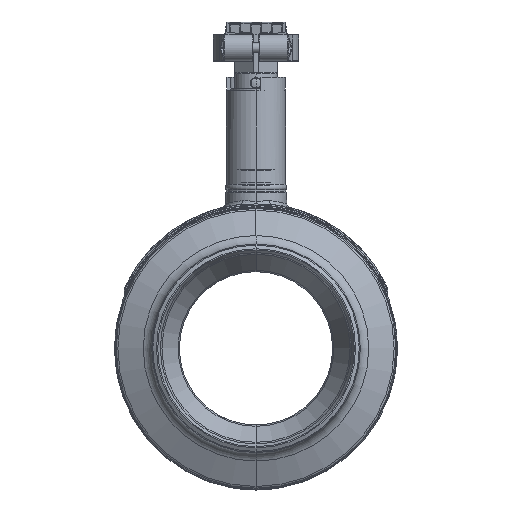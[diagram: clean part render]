
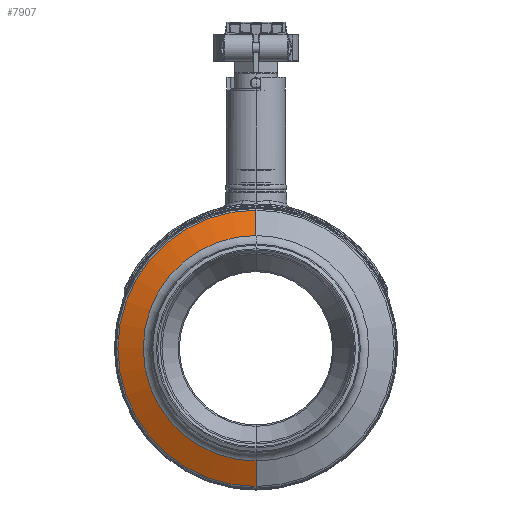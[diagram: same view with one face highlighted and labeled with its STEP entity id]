
A CAD part, left-side view. The second image highlights one B-rep face of the part: STEP entity #7907.
In plain terms, the highlighted conical face has half-angle 65 degrees and reference radius 102.271 mm.
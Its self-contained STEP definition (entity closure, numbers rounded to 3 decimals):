
#613=CARTESIAN_POINT('',(-76.346,0.,0.));
#614=DIRECTION('',(1.,0.,0.));
#615=DIRECTION('',(0.,0.,-1.));
#616=AXIS2_PLACEMENT_3D('',#613,#614,#615);
#618=CARTESIAN_POINT('',(-85.992,0.,0.));
#619=DIRECTION('',(1.,0.,0.));
#620=DIRECTION('',(0.,0.,-1.));
#621=AXIS2_PLACEMENT_3D('',#618,#619,#620);
#694=DIRECTION('',(-0.423,0.,0.906));
#695=VECTOR('',#694,22.823);
#696=CARTESIAN_POINT('',(-76.346,0.,
-112.613));
#697=LINE('',#696,#695);
#703=DIRECTION('',(-0.423,0.,-0.906));
#704=VECTOR('',#703,22.823);
#705=CARTESIAN_POINT('',(-76.346,0.,
112.613));
#706=LINE('',#705,#704);
#7187=CARTESIAN_POINT('',(-85.992,0.,
-91.929));
#7188=CARTESIAN_POINT('',(-85.992,0.,
91.929));
#7189=VERTEX_POINT('',#7187);
#7190=VERTEX_POINT('',#7188);
#7191=CARTESIAN_POINT('',(-76.346,0.,
-112.613));
#7192=CARTESIAN_POINT('',(-76.346,0.,
112.613));
#7193=VERTEX_POINT('',#7191);
#7194=VERTEX_POINT('',#7192);
#7893=CARTESIAN_POINT('',(-81.169,0.,0.));
#7894=DIRECTION('',(1.,0.,0.));
#7895=DIRECTION('',(0.,0.,1.));
#7896=AXIS2_PLACEMENT_3D('',#7893,#7894,#7895);
#7897=CONICAL_SURFACE('',#7896,102.271,65.);
#7899=ORIENTED_EDGE('',*,*,#7898,.T.);
#7901=ORIENTED_EDGE('',*,*,#7900,.T.);
#7902=ORIENTED_EDGE('',*,*,#7887,.F.);
#7904=ORIENTED_EDGE('',*,*,#7903,.F.);
#7905=EDGE_LOOP('',(#7899,#7901,#7902,#7904));
#7906=FACE_OUTER_BOUND('',#7905,.F.);
#617=CIRCLE('',#616,112.613);
#622=CIRCLE('',#621,91.929);
#7887=EDGE_CURVE('',#7189,#7190,#622,.T.);
#7898=EDGE_CURVE('',#7193,#7194,#617,.T.);
#7900=EDGE_CURVE('',#7194,#7190,#706,.T.);
#7903=EDGE_CURVE('',#7193,#7189,#697,.T.);
#7907=ADVANCED_FACE('',(#7906),#7897,.T.);
